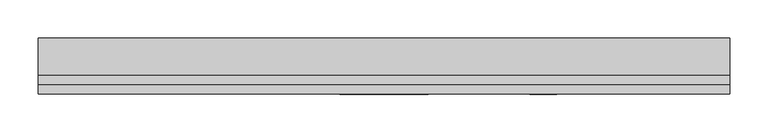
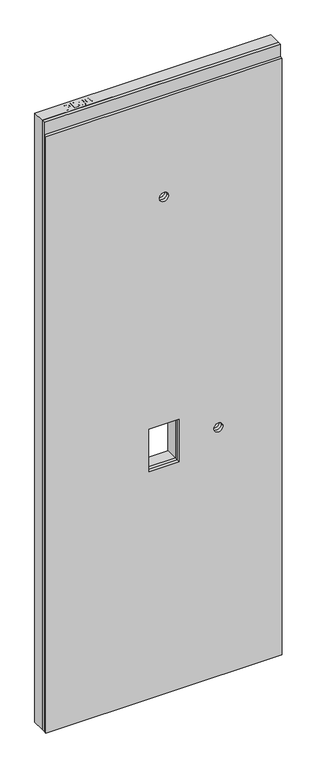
"""IFC4 building model written with IfcOpenShell, lengths in millimetres: proxy geometry, ParedeDuche_Blufab : Parede Duche- Largura 90 cm."""

import ifcopenshell
import ifcopenshell.guid

model = None  # the IFC model being written
_history = None  # IfcOwnerHistory: only IFC2X3 demands one
_inside = {}  # id of a spatial element -> (the spatial element, [elements in it])
_under = {}  # id of a project, library or spatial element -> (it, [spatial elements below it])
_declared = {}  # id of a project -> (the project, [libraries it declares])
_typed = {}  # id of a type object -> (the type object, [elements of that type])
_made_of = {}  # id of a material, layer set ... -> (it, [elements and type objects made of it])


def new_model(schema):
    """Start an empty IFC model of exactly this schema.

    Asked for "IFC4X3", IfcOpenShell would pick the latest addendum, in which some entities
    have other attributes; the version numbers below select the first issue.
    IFC2X3 requires an IfcOwnerHistory on every rooted entity: one is made here for all.
    """
    global model, _history
    if schema == "IFC4X3":
        model = ifcopenshell.file(schema_version=(4, 3, 0, 0))
    else:
        model = ifcopenshell.file(schema=schema)
    _inside.clear()
    _under.clear()
    _declared.clear()
    _typed.clear()
    _made_of.clear()
    _history = None
    if model.schema == "IFC2X3":
        org = make("IfcOrganization", Name="unknown")
        user = make(
            "IfcPersonAndOrganization",
            ThePerson=make("IfcPerson", FamilyName="unknown"),
            TheOrganization=org,
        )
        app = make(
            "IfcApplication",
            ApplicationDeveloper=org,
            Version="unknown",
            ApplicationFullName="unknown",
            ApplicationIdentifier="unknown",
        )
        _history = make(
            "IfcOwnerHistory",
            OwningUser=user,
            OwningApplication=app,
            ChangeAction="ADDED",
            CreationDate=0,
        )
    return model


def make(cls, **values):
    """One entity of the class cls with the attributes given. An attribute that is None is left unset."""
    return model.create_entity(
        cls, **{name: value for name, value in values.items() if value is not None}
    )


def rooted(cls, **values):
    """An entity with a GlobalId (a new one), such as an element, a storey or a relation."""
    return make(cls, GlobalId=ifcopenshell.guid.new(), OwnerHistory=_history, **values)


def si_unit(unit_type, name, prefix=None):
    """IfcSIUnit, for example si_unit("LENGTHUNIT", "METRE", prefix="MILLI")."""
    return make("IfcSIUnit", UnitType=unit_type, Prefix=prefix, Name=name)


def assignment(units):
    """IfcUnitAssignment: the units of a project."""
    return None if units is None else make("IfcUnitAssignment", Units=units)


def point(xyz):
    """IfcCartesianPoint."""
    return None if xyz is None else make("IfcCartesianPoint", Coordinates=xyz)


def direction(xyz):
    """IfcDirection."""
    return None if xyz is None else make("IfcDirection", DirectionRatios=xyz)


def frame(location, z_axis=None, x_axis=None):
    """IfcAxis2Placement3D, a coordinate frame: its origin and axes. An axis left out is left unset."""
    return make(
        "IfcAxis2Placement3D",
        Location=point(location),
        Axis=direction(z_axis),
        RefDirection=direction(x_axis),
    )


def frame_2d(location, x_axis=None):
    """IfcAxis2Placement2D, a coordinate frame in the plane: its origin and x axis."""
    return make(
        "IfcAxis2Placement2D", Location=point(location), RefDirection=direction(x_axis)
    )


def origin():
    """The frame at (0, 0, 0) with its axes left unset."""
    return frame((0.0, 0.0, 0.0))


def origin_with_axes():
    """The frame at (0, 0, 0) with the z axis (0, 0, 1) and the x axis (1, 0, 0) written out."""
    return frame((0.0, 0.0, 0.0), z_axis=(0.0, 0.0, 1.0), x_axis=(1.0, 0.0, 0.0))


def place(relative_to, where):
    """IfcLocalPlacement: puts the frame where relative to a parent placement (None: the world)."""
    return make(
        "IfcLocalPlacement", PlacementRelTo=relative_to, RelativePlacement=where
    )


def context(
    kind, dimensions, precision=None, world=None, true_north=None, identifier=None
):
    """IfcGeometricRepresentationContext, for example the 3D "Model" context."""
    return make(
        "IfcGeometricRepresentationContext",
        ContextIdentifier=identifier,
        ContextType=kind,
        CoordinateSpaceDimension=dimensions,
        Precision=precision,
        WorldCoordinateSystem=world,
        TrueNorth=true_north,
    )


def project(units=None, contexts=None):
    """IfcProject with its units and contexts."""
    return rooted(
        "IfcProject",
        Name="project",
        RepresentationContexts=contexts,
        UnitsInContext=assignment(units),
    )


def spatial(cls, under=None, at=None, **own):
    """A site, building, storey or space (cls), placed at a placement, below another one or the project."""
    s = rooted(cls, ObjectPlacement=at, **own)
    if under is not None:
        _under.setdefault(under.id(), (under, []))[1].append(s)
    return s


def polyline(points):
    """IfcPolyline through the points."""
    return make("IfcPolyline", Points=[point(p) for p in points])


def circle_curve(where, radius):
    """IfcCircle in the frame where."""
    return make("IfcCircle", Position=where, Radius=radius)


def trimmed(basis, trim1, trim2, sense, master):
    """IfcTrimmedCurve: the piece of a basis curve between two trims."""
    return make(
        "IfcTrimmedCurve",
        BasisCurve=basis,
        Trim1=trim1,
        Trim2=trim2,
        SenseAgreement=sense,
        MasterRepresentation=master,
    )


def segment(curve, same_sense, transition):
    """IfcCompositeCurveSegment."""
    return make(
        "IfcCompositeCurveSegment",
        Transition=transition,
        SameSense=same_sense,
        ParentCurve=curve,
    )


def composite_curve(segments, self_intersect=None):
    """IfcCompositeCurve: segments joined end to end."""
    return make("IfcCompositeCurve", Segments=segments, SelfIntersect=self_intersect)


def outline(outer, holes=None, kind="AREA"):
    """IfcArbitraryClosedProfileDef: a profile drawn as a closed curve; with holes, ...WithVoids."""
    if holes is None:
        return make("IfcArbitraryClosedProfileDef", ProfileType=kind, OuterCurve=outer)
    return make(
        "IfcArbitraryProfileDefWithVoids",
        ProfileType=kind,
        OuterCurve=outer,
        InnerCurves=holes,
    )


def extrude(swept, where, along, depth):
    """IfcExtrudedAreaSolid: the profile swept, set in the frame where, extruded along a direction by depth."""
    return make(
        "IfcExtrudedAreaSolid",
        SweptArea=swept,
        Position=where,
        ExtrudedDirection=direction(along),
        Depth=depth,
    )


def shape(context_of_items, identifier, shape_type, items):
    """IfcShapeRepresentation: the items that make up one representation, for example the "Body"."""
    return make(
        "IfcShapeRepresentation",
        ContextOfItems=context_of_items,
        RepresentationIdentifier=identifier,
        RepresentationType=shape_type,
        Items=items,
    )


def source(mapping_origin, context_of_items, identifier, shape_type, items):
    """IfcRepresentationMap: a shape defined once, which mapped items show again and again."""
    return make(
        "IfcRepresentationMap",
        MappingOrigin=mapping_origin,
        MappedRepresentation=shape(context_of_items, identifier, shape_type, items),
    )


def transform(
    local_origin,
    x_axis=None,
    y_axis=None,
    z_axis=None,
    scale=None,
    scale2=None,
    scale3=None,
    uniform=True,
):
    """IfcCartesianTransformationOperator3D, or its non-uniform kind. x_axis, y_axis, z_axis: its Axis1, 2, 3."""
    if uniform:
        return make(
            "IfcCartesianTransformationOperator3D",
            Axis1=direction(x_axis),
            Axis2=direction(y_axis),
            LocalOrigin=point(local_origin),
            Scale=scale,
            Axis3=direction(z_axis),
        )
    return make(
        "IfcCartesianTransformationOperator3DnonUniform",
        Axis1=direction(x_axis),
        Axis2=direction(y_axis),
        LocalOrigin=point(local_origin),
        Scale=scale,
        Axis3=direction(z_axis),
        Scale2=scale2,
        Scale3=scale3,
    )


def mapped(mapping_source, mapping_target):
    """IfcMappedItem: shows the shape of a source again, moved by a transform."""
    return make(
        "IfcMappedItem", MappingSource=mapping_source, MappingTarget=mapping_target
    )


def made_of(thing, what):
    """Note that an element or type object is made of a material, layer set ...; save() writes the relation."""
    if what is not None:
        _made_of.setdefault(what.id(), (what, []))[1].append(thing)
    return thing


def element(
    cls,
    number,
    at=None,
    inside=None,
    cuts=None,
    type_object=None,
    material=None,
    context=None,
    identifier="Body",
    shape_type=None,
    held_by="IfcProductDefinitionShape",
    body=None,
    shapes=None,
    **own,
):
    """One element of the class cls, such as IfcWall. Its Tag is "e" and its number.

    at: its placement. inside: the storey or other place that contains it. cuts: it is an
    opening in that element (IfcRelVoidsElement). A single representation is given by context,
    identifier, shape_type and body (its items); several are given by shapes. held_by: the class
    of the entity that holds the representations. save() writes the other relations.
    """
    e = rooted(cls, Tag="e%d" % number, ObjectPlacement=at, **own)
    if body is not None:
        shapes = [shape(context, identifier, shape_type, body)]
    if shapes is not None:
        e.Representation = make(held_by, Representations=shapes)
    if inside is not None:
        _inside.setdefault(inside.id(), (inside, []))[1].append(e)
    if cuts is not None:
        rooted(
            "IfcRelVoidsElement", RelatingBuildingElement=cuts, RelatedOpeningElement=e
        )
    if type_object is not None:
        _typed.setdefault(type_object.id(), (type_object, []))[1].append(e)
    return made_of(e, material)


def aggregate(whole, parts):
    """IfcRelAggregates: a whole, such as a stair, and the parts it consists of."""
    return rooted("IfcRelAggregates", RelatingObject=whole, RelatedObjects=parts)


def save(model, path):
    """Write the relations noted so far, then the file.

    IfcRelAggregates (storeys below a building ...), IfcRelContainedInSpatialStructure (elements
    in a storey), IfcRelDefinesByType, IfcRelAssociatesMaterial and IfcRelDeclares: one each for
    every whole, place, type object, material and project.
    """
    for whole, parts in _under.values():
        aggregate(whole, parts)
    for where, things in _inside.values():
        rooted(
            "IfcRelContainedInSpatialStructure",
            RelatedElements=things,
            RelatingStructure=where,
        )
    for kind, things in _typed.values():
        rooted("IfcRelDefinesByType", RelatedObjects=things, RelatingType=kind)
    for what, things in _made_of.values():
        rooted("IfcRelAssociatesMaterial", RelatedObjects=things, RelatingMaterial=what)
    for by, libraries in _declared.values():
        rooted("IfcRelDeclares", RelatingContext=by, RelatedDefinitions=libraries)
    model.write(path)


def generic_models_8d7f3108(model_context):
    return source(origin(), model_context, "Body", "SweptSolid", [
        extrude(outline(polyline([(2450.0, 900.0), (2450.0, 0.0), (0.0, 0.0), (0.0, 900.0), (2450.0, 900.0)]), holes=[composite_curve([segment(trimmed(circle_curve(frame_2d((1000.0, 657.5)), 17.5), [point((1000.0, 675.0))], [point((1000.0, 640.0))], True, "CARTESIAN"), True, "CONTINUOUS"), segment(trimmed(circle_curve(frame_2d((1000.0, 657.5)), 17.5), [point((1000.0, 640.0))], [point((1000.0, 675.0))], True, "CARTESIAN"), True, "CONTINUOUS")], self_intersect=False), polyline([(1085.0, 392.5), (1085.0, 507.5), (915.0, 507.5), (915.0, 392.5), (1085.0, 392.5)]), composite_curve([segment(trimmed(circle_curve(frame_2d((2000.0, 450.0)), 17.5), [point((2000.0, 467.5))], [point((2000.0, 432.5))], True, "CARTESIAN"), True, "CONTINUOUS"), segment(trimmed(circle_curve(frame_2d((2000.0, 450.0)), 17.5), [point((2000.0, 432.5))], [point((2000.0, 467.5))], True, "CARTESIAN"), True, "CONTINUOUS")], self_intersect=False)]), frame((0.0, 25.0126803, 0.0), z_axis=(0.0, 1.0, 0.0), x_axis=(0.0, 0.0, 1.0)), (0.0, 0.0, 1.0), 47.9873197),
        extrude(outline(polyline([(2450.0, 900.0), (2450.0, 0.0), (0.0, 0.0), (0.0, 900.0), (2450.0, 900.0)]), holes=[composite_curve([segment(trimmed(circle_curve(frame_2d((1000.0, 657.5)), 17.5), [point((1000.0, 675.0))], [point((1000.0, 640.0))], True, "CARTESIAN"), True, "CONTINUOUS"), segment(trimmed(circle_curve(frame_2d((1000.0, 657.5)), 17.5), [point((1000.0, 640.0))], [point((1000.0, 675.0))], True, "CARTESIAN"), True, "CONTINUOUS")], self_intersect=False), polyline([(1085.0, 392.5), (1085.0, 507.5), (915.0, 507.5), (915.0, 392.5), (1085.0, 392.5)]), composite_curve([segment(trimmed(circle_curve(frame_2d((2000.0, 450.0)), 17.5), [point((2000.0, 467.5))], [point((2000.0, 432.5))], True, "CARTESIAN"), True, "CONTINUOUS"), segment(trimmed(circle_curve(frame_2d((2000.0, 450.0)), 17.5), [point((2000.0, 432.5))], [point((2000.0, 467.5))], True, "CARTESIAN"), True, "CONTINUOUS")], self_intersect=False)]), frame((0.0, 12.5126803, 0.0), z_axis=(0.0, 1.0, 0.0), x_axis=(0.0, 0.0, 1.0)), (0.0, 0.0, 1.0), 12.5),
        extrude(outline(polyline([(2400.0, 900.0), (2400.0, 0.0), (0.0, 0.0), (0.0, 900.0), (2400.0, 900.0)]), holes=[composite_curve([segment(trimmed(circle_curve(frame_2d((1000.0, 657.5)), 17.5), [point((1000.0, 675.0))], [point((1000.0, 640.0))], True, "CARTESIAN"), True, "CONTINUOUS"), segment(trimmed(circle_curve(frame_2d((1000.0, 657.5)), 17.5), [point((1000.0, 640.0))], [point((1000.0, 675.0))], True, "CARTESIAN"), True, "CONTINUOUS")], self_intersect=False), polyline([(1085.0, 392.5), (1085.0, 507.5), (915.0, 507.5), (915.0, 392.5), (1085.0, 392.5)]), composite_curve([segment(trimmed(circle_curve(frame_2d((2000.0, 450.0)), 17.5), [point((2000.0, 467.5))], [point((2000.0, 432.5))], True, "CARTESIAN"), True, "CONTINUOUS"), segment(trimmed(circle_curve(frame_2d((2000.0, 450.0)), 17.5), [point((2000.0, 432.5))], [point((2000.0, 467.5))], True, "CARTESIAN"), True, "CONTINUOUS")], self_intersect=False)]), frame((0.0, 0.0, 0.0), z_axis=(0.0, 1.0, 0.0), x_axis=(0.0, 0.0, 1.0)), (0.0, 0.0, 1.0), 12.5),
        extrude(outline(polyline([(101.2629933, 34.0063401), (101.2629933, 64.1432332), (112.4318907, 64.1432332), (116.9347663, 63.8562852), (120.5951921, 62.4472972), (122.968031, 59.5336718), (123.8656631, 55.4244299), (121.4413207, 48.9129186), (112.689408, 46.2494529), (105.0301049, 46.2494529), (105.0301049, 34.0063401), (101.2629933, 34.0063401)]), holes=[polyline([(105.0301049, 50.0165646), (112.9101372, 50.0165646), (118.4577977, 51.3998009), (120.0985514, 55.2919924), (119.1310218, 58.4116317), (116.5889572, 60.1186041), (112.8218456, 60.3761215), (105.0301049, 60.3761215), (105.0301049, 50.0165646)])]), origin_with_axes(), (0.0, 0.0, 1.0), 2450.0),
        extrude(outline(polyline([(129.0454416, 34.0063401), (129.0454416, 64.1432332), (139.4417867, 64.1432332), (144.8202215, 63.7091324), (149.2495207, 61.5533439), (152.8179761, 56.402996), (154.0025561, 49.2366547), (153.2005734, 43.1555653), (151.1404342, 38.7667331), (148.3886769, 36.0333699), (144.7871121, 34.5213749), (139.9421063, 34.0063401), (129.0454416, 34.0063401)]), holes=[polyline([(132.8125532, 37.7734518), (139.4785749, 37.7734518), (144.3272596, 38.3179171), (147.1231628, 39.8556639), (149.4150676, 43.5970237), (150.2354445, 49.2955158), (148.6278002, 56.4324266), (144.7172145, 59.7727951), (139.375568, 60.3761215), (132.8125532, 60.3761215), (132.8125532, 37.7734518)])]), origin_with_axes(), (0.0, 0.0, 1.0), 2450.0),
        extrude(outline(polyline([(158.2405567, 41.5405634), (162.0076683, 42.0114523), (163.6999255, 38.4172453), (166.9078565, 37.3025628), (169.9575982, 38.0199327), (172.0250951, 39.9365979), (173.2574997, 43.2107476), (173.8019651, 47.5811858), (170.7669386, 45.4621855), (166.6356238, 44.3658971), (160.3411629, 47.044078), (157.7696677, 54.1000547), (160.4662428, 61.3841182), (167.224235, 64.1432332), (172.5916333, 62.5686982), (176.2851686, 58.0805379), (177.5470038, 49.6486826), (176.2888474, 40.4994573), (172.5474875, 35.316), (166.7312731, 33.5354512), (160.9408105, 35.6360574), (158.2405567, 41.5405634)]), holes=[polyline([(173.7798922, 54.1883464), (172.1538537, 58.7059373), (167.8349191, 60.3761215), (163.3026129, 58.5771786), (161.5367794, 53.9161137), (163.2069636, 49.7406531), (167.7319122, 48.1330087), (172.0765985, 49.7406531), (173.7798922, 54.1883464)])]), origin_with_axes(), (0.0, 0.0, 1.0), 2450.0),
        extrude(outline(polyline([(180.8432265, 48.8319845), (181.9505513, 57.5029632), (185.2394163, 62.5024795), (190.7318945, 64.1432332), (195.1317632, 63.1720247), (198.1704684, 60.3724427), (199.936302, 55.9137129), (200.6205625, 48.8319845), (199.5242742, 40.1977941), (196.2464456, 35.1872413), (190.7318945, 33.5354512), (183.8451436, 36.4049307), (180.8432265, 48.8319845)]), holes=[polyline([(184.6103381, 48.8393422), (186.3761717, 39.484103), (190.7318945, 37.3025628), (195.0876173, 39.4914607), (196.8534509, 48.8393422), (195.1464784, 58.0878955), (190.6877487, 60.3761215), (186.4350328, 58.3601282), (184.6103381, 48.8393422)])]), origin_with_axes(), (0.0, 0.0, 1.0), 2450.0),
    ])


if __name__ == "__main__":
    model = new_model("IFC4")
    model_context = context("Model", 3, world=origin())
    ifc_project = project(units=[si_unit("LENGTHUNIT", "METRE", prefix="MILLI")], contexts=[model_context])
    site = spatial("IfcSite", under=ifc_project)
    building = spatial("IfcBuilding", under=site)
    placement = place(None, origin())
    generic_models_shape = generic_models_8d7f3108(model_context)
    element("IfcBuildingElementProxy", 1, Name="ParedeDuche_Blufab : Parede Duche- Largura 90 cm", ObjectType="ParedeDuche_Blufab : Parede Duche- Largura 90 cm", at=placement, inside=building, context=model_context, shape_type="MappedRepresentation", body=[
        mapped(generic_models_shape, transform((0.0, 0.0, 0.0), x_axis=(1.0, 0.0, 0.0), y_axis=(0.0, 1.0, 0.0), z_axis=(0.0, 0.0, 1.0))),
    ])
    save(model, "model.ifc")
